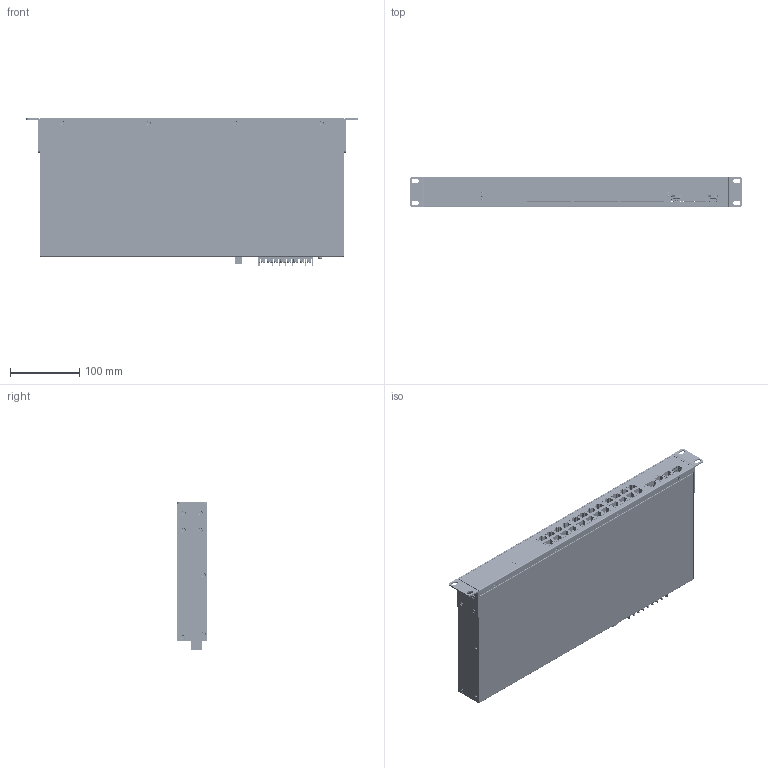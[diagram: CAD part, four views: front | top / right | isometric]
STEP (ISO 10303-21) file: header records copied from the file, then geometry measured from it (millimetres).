
FILE_DESCRIPTION(/* description */ ('STEP AP242 Edition 2','CAx-IF Rec.Pracs.---Representation and Presentation of Product Manufacturing Information (PMI)---4.0---2014-10-13','CAx-IF Rec.Pracs.---3D Tessellated Geometry---0.4---2014-09-14','2;1','CAx-IF Rec.Pracs.---User Defined Attributes---1.5---2016-08-15'),/* implementation_level */ '2;1');
FILE_NAME(/* name */ '69433cd51712620c0753d679',/* time_stamp */ '2025-12-17T23:29:30Z',/* author */ (''),/* organization */ (''),/* preprocessor_version */ 'ST-DEVELOPER v20',/* originating_system */ 'ONSHAPE BY PTC INC, 1.208',/* authorisation */ ' ');
FILE_SCHEMA (('AP242_MANAGED_MODEL_BASED_3D_ENGINEERING_MIM_LF { 1 0 10303 442 3 1 4 }'));
Products named in the file (63): SD-090 - Rev A - Industrial 24+2 Rack Mount Ethernet PoE Switch; PRT0018_16; PRT0014; PRT0002_11; PRT0006; PRT0002_5; PRT0002_9; PRT0013; PRT0007; PRT0016; PRT0002_19; PRT0018_7; PRT0018_8; PRT0002_18; PRT0002_13; PRT0009; PRT0001; PRT0002; PRT0002_20; PRT0006_1; PRT0018_11; PRT0008_1; PRT0002_16; PRT0018_9; PRT0002_14; PRT0018_14; PRT0002_8; PRT0002_3; PRT0003; PRT0018; PRT0018_12; PRT0004_2; PRT0005; PRT0018_19; PRT0018_13; PRT0018_2; PRT0018_10; PRT0016_1; PRT0018_6; PRT0002_10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
Assembly tree (62 placements, depth 2):
  SD-090 - Rev A - Industrial 24+2 Rack Mount Ethernet PoE Switch
    PRT0018_16
    PRT0014
    PRT0002_11
    PRT0006
    PRT0002_5
    PRT0002_9
    PRT0013
    PRT0007
    PRT0016
    PRT0002_19
    PRT0018_7
    PRT0018_8
    PRT0002_18
    PRT0002_13
    PRT0009
    PRT0001
    PRT0002
    PRT0002_20
    PRT0006_1
    PRT0018_11
    PRT0008_1
    PRT0002_16
    PRT0018_9
    PRT0002_14
    PRT0018_14
    PRT0002_8
    PRT0002_3
    PRT0003
    PRT0018
    PRT0018_12
    PRT0004_2
    PRT0005
    PRT0018_19
    PRT0018_13
    PRT0018_2
    PRT0018_10
    PRT0016_1
    PRT0018_6
    PRT0002_10
    PRT0018_4
    PRT0002_15
    PRT0002_6
    PRT0010
    PRT0004
    PRT0018_3
    PRT0019
    PRT0002_1
    PRT0007_1
    PRT0008
    PRT0018_15
    PRT0002_12
    PRT0018_17
    PRT0002_17
    PRT0004_1
    PRT0018_1
    PRT0002_2
    PRT0015
    PRT0018_5
    PRT0002_4
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Bounding box: 480 x 44 x 213.56 mm (x, y, z)
Volume: 386777.8 mm3; surface area: 599516 mm2
Topology: 62 solids, 82 shells, 7341 faces, 20478 edges, 13306 vertices
Faces by surface type: plane 5076, cylinder 1954, torus 119, cone 116, bspline 45, sphere 31
Full cylindrical faces by diameter (mm): 0.609 x1, 1.4 x4, 2 x44, 2.3 x5, 2.449 x21, 2.459 x21, 2.5 x1, 2.8 x2, 2.9 x8, 3 x27, 3.5 x14, 3.78 x21, 3.783 x2, 3.99 x42, 4 x61, 4.2 x63, 4.4 x2, 5 x20, 5.5 x2, 6.5 x8
Entity records: 234176 total; most frequent: CARTESIAN_POINT 43753, ORIENTED_EDGE 39254, DIRECTION 38498, EDGE_CURVE 19627, LINE 15230, VECTOR 15230, VERTEX_POINT 13022, AXIS2_PLACEMENT_3D 11634
